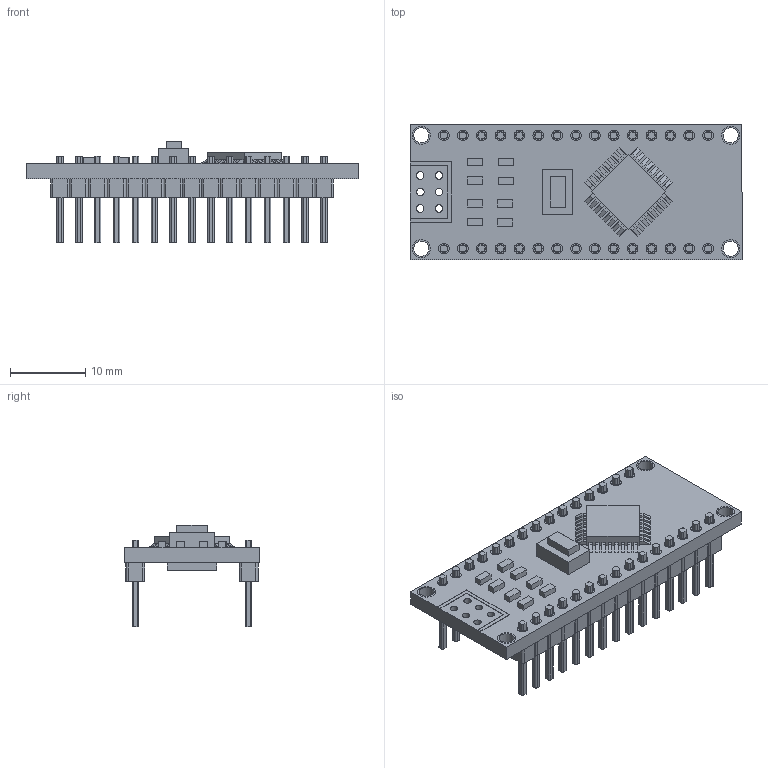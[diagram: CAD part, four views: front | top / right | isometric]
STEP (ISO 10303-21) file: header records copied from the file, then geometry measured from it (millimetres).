
FILE_DESCRIPTION(('FreeCAD Model'),'2;1');
FILE_NAME('Open CASCADE Shape Model','2023-05-06T18:44:57',('Author'),( ''),'Open CASCADE STEP processor 7.5','FreeCAD','Unknown');
FILE_SCHEMA(('AUTOMOTIVE_DESIGN { 1 0 10303 214 1 1 1 1 }'));
Length unit declared in the file: millimetre
Products named in the file (3): ARDUINO NANO; arduino nano; PINs_15 dad
Assembly tree (3 placements, depth 2):
  arduino nano
    ARDUINO NANO
    PINs_15 dad  x2
Bounding box: 44 x 18 x 13.5 mm (x, y, z)
Volume: 2326.2 mm3; surface area: 4724.7 mm2
Topology: 62 solids, 62 shells, 947 faces, 2331 edges, 1593 vertices
Faces by surface type: plane 637, cylinder 310
Full cylindrical faces by diameter (mm): 1 x36, 1.2 x30, 2 x4
Entity records: 19430 total; most frequent: CARTESIAN_POINT 3592, DIRECTION 3177, ORIENTED_EDGE 3022, EDGE_CURVE 1511, VERTEX_POINT 1083, LINE 1065, VECTOR 1065, AXIS2_PLACEMENT_3D 1056
